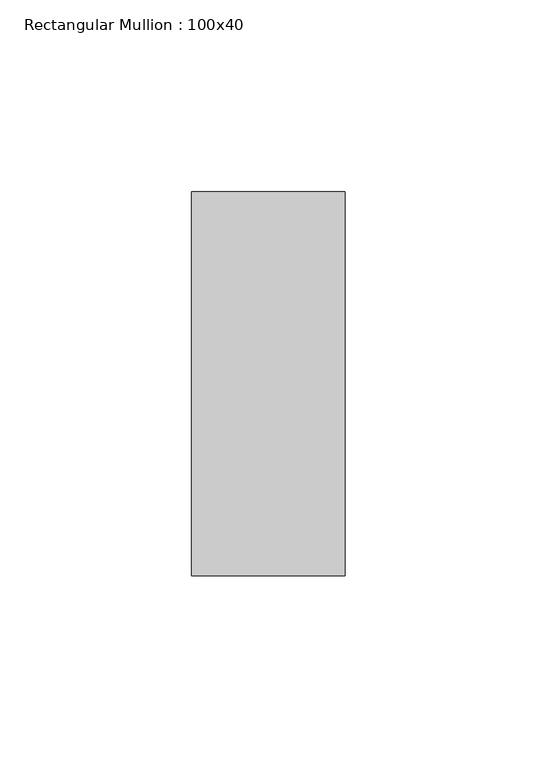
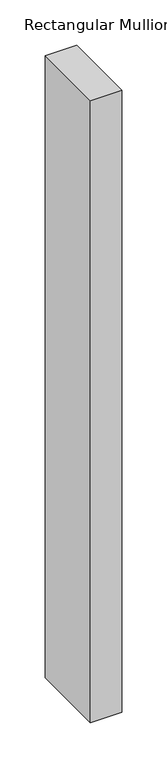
"""IFC4 building model written with IfcOpenShell, lengths in millimetres: member geometry, Rectangular Mullion : 100x40."""

from ifc_helpers import new_model, si_unit, frame, origin, place, context, project, spatial, polyline, outline, extrude, source, transform, mapped, element, save


def rectangular_mullion_100x40_0f7b2af5(model_context):
    return source(origin(), model_context, "Body", "SweptSolid", [
        extrude(outline(polyline([(20.0, 50.0), (20.0, -50.0), (-20.0, -50.0), (-20.0, 50.0), (20.0, 50.0)])), frame((0.0, 0.0, -840.0), z_axis=(0.0, 0.0, 1.0), x_axis=(1.0, 0.0, 0.0)), (0.0, 0.0, 1.0), 840.0),
    ])


if __name__ == "__main__":
    model = new_model("IFC4")
    model_context = context("Model", 3, world=origin())
    ifc_project = project(units=[si_unit("LENGTHUNIT", "METRE", prefix="MILLI")], contexts=[model_context])
    site = spatial("IfcSite", under=ifc_project)
    building = spatial("IfcBuilding", under=site)
    placement = place(None, origin())
    rectangular_mullion_100x40_shape = rectangular_mullion_100x40_0f7b2af5(model_context)
    element("IfcMember", 1, ObjectType="Rectangular Mullion : 100x40", at=placement, inside=building, context=model_context, shape_type="MappedRepresentation", body=[
        mapped(rectangular_mullion_100x40_shape, transform((0.0, 0.0, 0.0), x_axis=(1.0, 0.0, 0.0), y_axis=(0.0, 1.0, 0.0), z_axis=(0.0, 0.0, 1.0))),
    ])
    save(model, "model.ifc")
